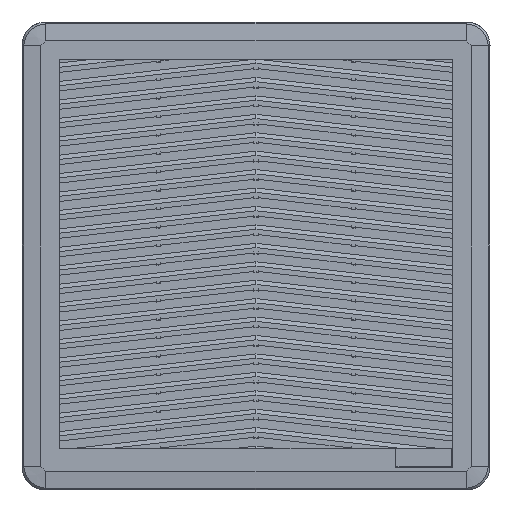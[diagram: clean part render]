
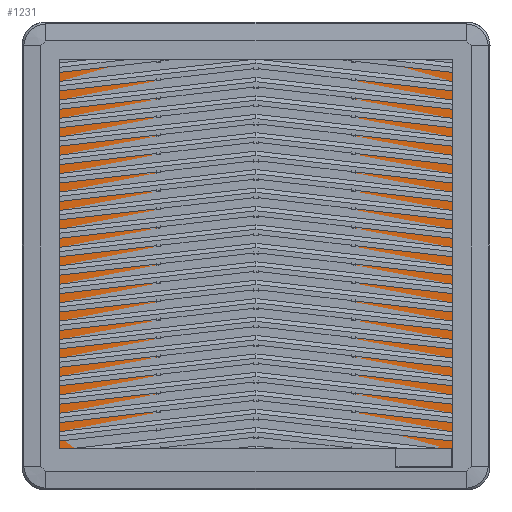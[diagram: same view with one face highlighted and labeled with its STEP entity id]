
A CAD part, top view. The second image highlights one B-rep face of the part: STEP entity #1231.
In plain terms, the highlighted planar face has unit normal (0, 0, 1).
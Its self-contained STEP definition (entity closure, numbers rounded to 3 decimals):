
#1231=ADVANCED_FACE('',(#2191),#16805,.T.);
#2191=FACE_OUTER_BOUND('',#3168,.T.);
#3168=EDGE_LOOP('',(#6015,#6016,#6017,#6018,#6019,#6020,#6021,#6022));
#6015=ORIENTED_EDGE('',*,*,#10141,.F.);
#6016=ORIENTED_EDGE('',*,*,#10143,.T.);
#6017=ORIENTED_EDGE('',*,*,#10147,.F.);
#6018=ORIENTED_EDGE('',*,*,#10149,.T.);
#6019=ORIENTED_EDGE('',*,*,#10151,.F.);
#6020=ORIENTED_EDGE('',*,*,#10154,.F.);
#6021=ORIENTED_EDGE('',*,*,#10156,.F.);
#6022=ORIENTED_EDGE('',*,*,#10138,.T.);
#10138=EDGE_CURVE('',#15268,#15267,#12894,.T.);
#10141=EDGE_CURVE('',#15269,#15267,#12129,.T.);
#10143=EDGE_CURVE('',#15269,#15270,#12897,.T.);
#10147=EDGE_CURVE('',#15271,#15270,#12132,.T.);
#10149=EDGE_CURVE('',#15271,#15272,#12901,.T.);
#10151=EDGE_CURVE('',#15273,#15272,#12133,.T.);
#10154=EDGE_CURVE('',#15274,#15273,#12904,.T.);
#10156=EDGE_CURVE('',#15268,#15274,#12136,.T.);
#12129=(
BOUNDED_CURVE()
B_SPLINE_CURVE(2,(#34940,#34941,#34942),.UNSPECIFIED.,.F.,.F.)
B_SPLINE_CURVE_WITH_KNOTS((3,3),(0.,16.493),.UNSPECIFIED.)
CURVE()
GEOMETRIC_REPRESENTATION_ITEM()
RATIONAL_B_SPLINE_CURVE((1.,0.707,1.))
REPRESENTATION_ITEM('')
);
#12132=(
BOUNDED_CURVE()
B_SPLINE_CURVE(2,(#34955,#34956,#34957),.UNSPECIFIED.,.F.,.F.)
B_SPLINE_CURVE_WITH_KNOTS((3,3),(0.,16.493),.UNSPECIFIED.)
CURVE()
GEOMETRIC_REPRESENTATION_ITEM()
RATIONAL_B_SPLINE_CURVE((1.,0.707,1.))
REPRESENTATION_ITEM('')
);
#12133=(
BOUNDED_CURVE()
B_SPLINE_CURVE(2,(#34964,#34965,#34966),.UNSPECIFIED.,.F.,.F.)
B_SPLINE_CURVE_WITH_KNOTS((3,3),(0.,16.493),.UNSPECIFIED.)
CURVE()
GEOMETRIC_REPRESENTATION_ITEM()
RATIONAL_B_SPLINE_CURVE((1.,0.707,1.))
REPRESENTATION_ITEM('')
);
#12136=(
BOUNDED_CURVE()
B_SPLINE_CURVE(2,(#34977,#34978,#34979),.UNSPECIFIED.,.F.,.F.)
B_SPLINE_CURVE_WITH_KNOTS((3,3),(0.,16.493),.UNSPECIFIED.)
CURVE()
GEOMETRIC_REPRESENTATION_ITEM()
RATIONAL_B_SPLINE_CURVE((1.,0.707,1.))
REPRESENTATION_ITEM('')
);
#12894=B_SPLINE_CURVE_WITH_KNOTS('',1,(#34934,#34935),.UNSPECIFIED.,.F.,
 .F.,(2,2),(-224.,0.),.UNSPECIFIED.);
#12897=B_SPLINE_CURVE_WITH_KNOTS('',1,(#34946,#34947),.UNSPECIFIED.,.F.,
 .F.,(2,2),(-226.5,0.),.UNSPECIFIED.);
#12901=B_SPLINE_CURVE_WITH_KNOTS('',1,(#34960,#34961),.UNSPECIFIED.,.F.,
 .F.,(2,2),(-224.,0.),.UNSPECIFIED.);
#12904=B_SPLINE_CURVE_WITH_KNOTS('',1,(#34972,#34973),.UNSPECIFIED.,.F.,
 .F.,(2,2),(0.,226.5),.UNSPECIFIED.);
#15267=VERTEX_POINT('',#34692);
#15268=VERTEX_POINT('',#34693);
#15269=VERTEX_POINT('',#34694);
#15270=VERTEX_POINT('',#34695);
#15271=VERTEX_POINT('',#34696);
#15272=VERTEX_POINT('',#34697);
#15273=VERTEX_POINT('',#34698);
#15274=VERTEX_POINT('',#34699);
#16805=PLANE('',#17854);
#17854=AXIS2_PLACEMENT_3D('',#34611,#18705,$);
#18705=DIRECTION('',(0.,0.,1.));
#34611=CARTESIAN_POINT('',(-146.96,-147.29,6.009));
#34692=CARTESIAN_POINT('',(-111.96,124.96,6.009));
#34693=CARTESIAN_POINT('',(112.04,124.96,6.009));
#34694=CARTESIAN_POINT('',(-122.46,114.46,6.009));
#34695=CARTESIAN_POINT('',(-122.46,-112.04,6.009));
#34696=CARTESIAN_POINT('',(-111.96,-122.54,6.009));
#34697=CARTESIAN_POINT('',(112.04,-122.54,6.009));
#34698=CARTESIAN_POINT('',(122.54,-112.04,6.009));
#34699=CARTESIAN_POINT('',(122.54,114.46,6.009));
#34934=CARTESIAN_POINT('',(112.04,124.96,6.009));
#34935=CARTESIAN_POINT('',(-111.96,124.96,6.009));
#34940=CARTESIAN_POINT('',(-122.46,114.46,6.009));
#34941=CARTESIAN_POINT('',(-122.46,124.96,6.009));
#34942=CARTESIAN_POINT('',(-111.96,124.96,6.009));
#34946=CARTESIAN_POINT('',(-122.46,114.46,6.009));
#34947=CARTESIAN_POINT('',(-122.46,-112.04,6.009));
#34955=CARTESIAN_POINT('',(-111.96,-122.54,6.009));
#34956=CARTESIAN_POINT('',(-122.46,-122.54,6.009));
#34957=CARTESIAN_POINT('',(-122.46,-112.04,6.009));
#34960=CARTESIAN_POINT('',(-111.96,-122.54,6.009));
#34961=CARTESIAN_POINT('',(112.04,-122.54,6.009));
#34964=CARTESIAN_POINT('',(122.54,-112.04,6.009));
#34965=CARTESIAN_POINT('',(122.54,-122.54,6.009));
#34966=CARTESIAN_POINT('',(112.04,-122.54,6.009));
#34972=CARTESIAN_POINT('',(122.54,114.46,6.009));
#34973=CARTESIAN_POINT('',(122.54,-112.04,6.009));
#34977=CARTESIAN_POINT('',(112.04,124.96,6.009));
#34978=CARTESIAN_POINT('',(122.54,124.96,6.009));
#34979=CARTESIAN_POINT('',(122.54,114.46,6.009));
